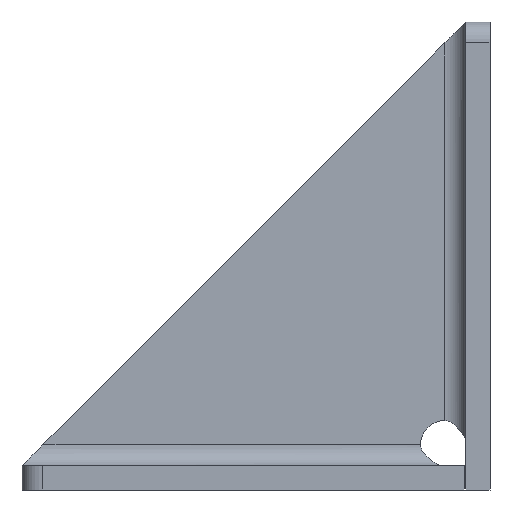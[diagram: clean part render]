
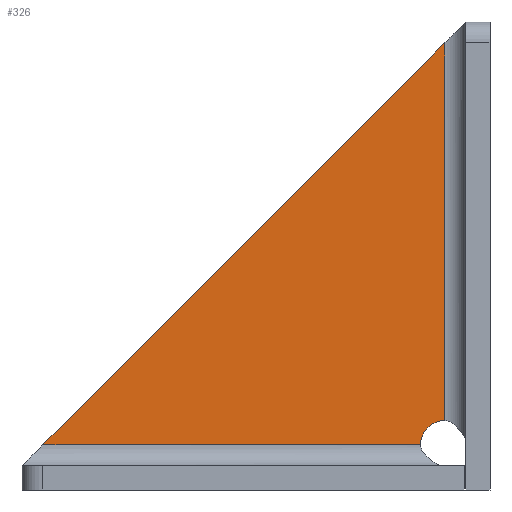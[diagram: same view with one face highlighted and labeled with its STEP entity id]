
A CAD part, left-side view. The second image highlights one B-rep face of the part: STEP entity #326.
In plain terms, the highlighted planar face has unit normal (-1, 0, 0).
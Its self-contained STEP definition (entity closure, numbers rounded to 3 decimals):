
#61 = DIRECTION ( 'NONE',  ( 0., -1., 0. ) ) ;
#100 = VECTOR ( 'NONE', #1307, 1000. ) ;
#114 = EDGE_CURVE ( 'NONE', #474, #1060, #1194, .T. ) ;
#164 = VERTEX_POINT ( 'NONE', #428 ) ;
#215 = CARTESIAN_POINT ( 'NONE',  ( 6.783, -9.203, 55.4 ) ) ;
#241 = ORIENTED_EDGE ( 'NONE', *, *, #114, .T. ) ;
#244 = DIRECTION ( 'NONE',  ( 0., -0.707, 0.707 ) ) ;
#326 = ADVANCED_FACE ( 'NONE', ( #1447 ), #527, .T. ) ;
#428 = CARTESIAN_POINT ( 'NONE',  ( 6.783, 40.597, 5.6 ) ) ;
#474 = VERTEX_POINT ( 'NONE', #1072 ) ;
#498 = VECTOR ( 'NONE', #61, 1000. ) ;
#508 = CARTESIAN_POINT ( 'NONE',  ( 6.783, -9.203, 0. ) ) ;
#509 = DIRECTION ( 'NONE',  ( 1., 0., 0. ) ) ;
#527 = PLANE ( 'NONE',  #714 ) ;
#587 = LINE ( 'NONE', #922, #773 ) ;
#639 = CIRCLE ( 'NONE', #1087, 3. ) ;
#646 = DIRECTION ( 'NONE',  ( -1., 0., 0. ) ) ;
#687 = EDGE_CURVE ( 'NONE', #164, #1089, #770, .T. ) ;
#714 = AXIS2_PLACEMENT_3D ( 'NONE', #1326, #646, #1444 ) ;
#721 = ORIENTED_EDGE ( 'NONE', *, *, #849, .F. ) ;
#749 = CARTESIAN_POINT ( 'NONE',  ( 6.783, -6.203, 5.6 ) ) ;
#770 = LINE ( 'NONE', #749, #498 ) ;
#773 = VECTOR ( 'NONE', #244, 1000. ) ;
#849 = EDGE_CURVE ( 'NONE', #164, #1060, #587, .T. ) ;
#922 = CARTESIAN_POINT ( 'NONE',  ( 6.783, 43.197, 3. ) ) ;
#948 = CARTESIAN_POINT ( 'NONE',  ( 6.783, -6.203, 5.6 ) ) ;
#956 = EDGE_LOOP ( 'NONE', ( #721, #1187, #1150, #241 ) ) ;
#1060 = VERTEX_POINT ( 'NONE', #215 ) ;
#1072 = CARTESIAN_POINT ( 'NONE',  ( 6.783, -9.203, 8.6 ) ) ;
#1087 = AXIS2_PLACEMENT_3D ( 'NONE', #1196, #509, #1310 ) ;
#1089 = VERTEX_POINT ( 'NONE', #948 ) ;
#1145 = EDGE_CURVE ( 'NONE', #1089, #474, #639, .T. ) ;
#1150 = ORIENTED_EDGE ( 'NONE', *, *, #1145, .T. ) ;
#1187 = ORIENTED_EDGE ( 'NONE', *, *, #687, .T. ) ;
#1194 = LINE ( 'NONE', #508, #100 ) ;
#1196 = CARTESIAN_POINT ( 'NONE',  ( 6.783, -9.203, 5.6 ) ) ;
#1307 = DIRECTION ( 'NONE',  ( 0., 0., 1. ) ) ;
#1310 = DIRECTION ( 'NONE',  ( 0., -1., 0. ) ) ;
#1326 = CARTESIAN_POINT ( 'NONE',  ( 6.783, 0., 0. ) ) ;
#1444 = DIRECTION ( 'NONE',  ( 0., -1., 0. ) ) ;
#1447 = FACE_OUTER_BOUND ( 'NONE', #956, .T. ) ;
